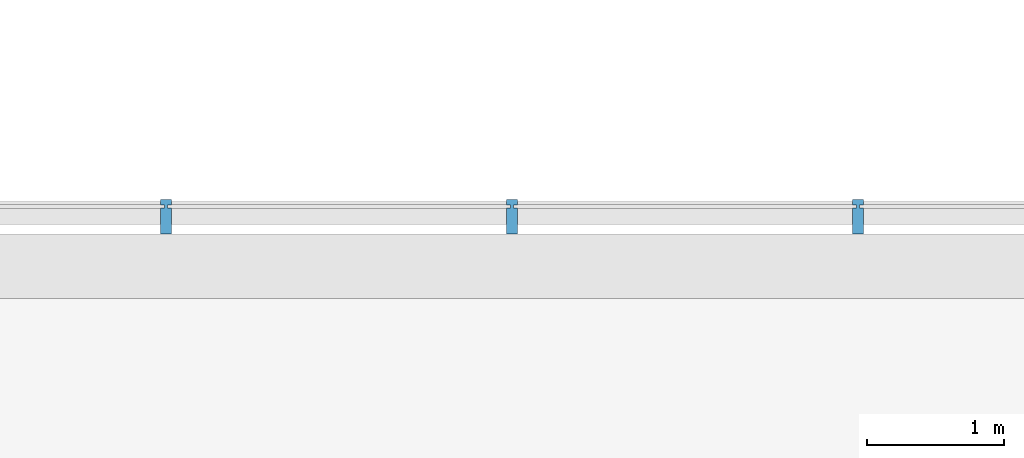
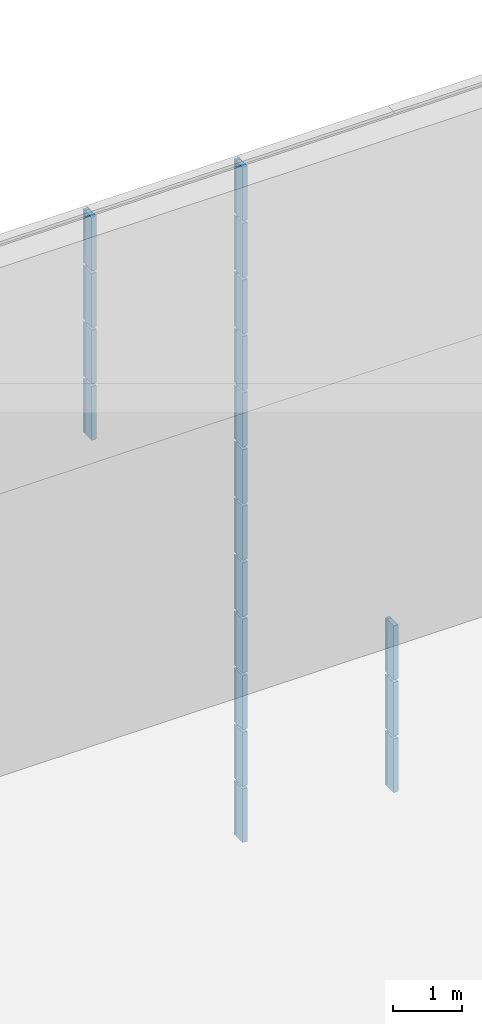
# One storey, part 89 of 105: 19 building element parts, 4 elements without a shape of their own.
"""IFC4 building model written with IfcOpenShell, lengths in millimetres."""

from ifc_helpers import new_model, entity, si_unit, converted_unit, derived_unit, direction, frame, origin_with_axes, place, context, subcontext, project, spatial, triangles, material, element, aggregate, save


model = new_model("IFC4")

# Units and contexts
model_context = context("Model", 3, precision=1e-05, world=origin_with_axes(), true_north=direction((0.0, 1.0)))
body_context = subcontext(model_context, "Body", "Model", "MODEL_VIEW")
ifc_project = project(units=[si_unit("LENGTHUNIT", "METRE", prefix="MILLI"), si_unit("AREAUNIT", "SQUARE_METRE"), si_unit("VOLUMEUNIT", "CUBIC_METRE"), converted_unit("PLANEANGLEUNIT", "DEGREE", entity("IfcLengthMeasure", 0.017453), si_unit("PLANEANGLEUNIT", "RADIAN"), dimensions=[0, 0, 0, 0, 0, 0, 0]), si_unit("SOLIDANGLEUNIT", "STERADIAN"), si_unit("MASSUNIT", "GRAM"), si_unit("TIMEUNIT", "SECOND"), si_unit("THERMODYNAMICTEMPERATUREUNIT", "DEGREE_CELSIUS"), si_unit("LUMINOUSINTENSITYUNIT", "LUMEN"), si_unit("POWERUNIT", "WATT"), derived_unit("THERMALTRANSMITTANCEUNIT", [(si_unit("POWERUNIT", "WATT"), 1), (si_unit("THERMODYNAMICTEMPERATUREUNIT", "KELVIN"), -1), (si_unit("AREAUNIT", "SQUARE_METRE"), -1)])], contexts=[model_context])

# Site, building, storey
site_placement = place(None, origin_with_axes())
site = spatial("IfcSite", under=ifc_project, at=site_placement, Name="Default Site", CompositionType="ELEMENT")
building_placement = place(site_placement, origin_with_axes())
building = spatial("IfcBuilding", under=site, at=building_placement, Name="Default Building", CompositionType="ELEMENT")
storey_placement = place(building_placement, origin_with_axes())
storey = spatial("IfcBuildingStorey", under=building, at=storey_placement, Name="OG - Story", CompositionType="ELEMENT", Elevation=0.0)

# Curtain wall, building element parts
curtain_wall_1_placement = place(storey_placement, origin_with_axes())
curtain_wall_1 = element("IfcCurtainWall", 1, at=curtain_wall_1_placement, inside=storey, Name="Fassade-004", PredefinedType="NOTDEFINED")
ifc_material = material(Name="Blech")
building_element_part_1_placement = place(curtain_wall_1_placement, frame((33014.549222, -4389.262838, 0.0), z_axis=(0.0, 0.0, 1.0), x_axis=(1.0, 0.0, 0.0)))
building_element_part_1 = element("IfcBuildingElementPart", 2, at=building_element_part_1_placement, material=ifc_material, Name="Blech", PredefinedType="NOTDEFINED", context=body_context, shape_type="Tessellation", body=[
    triangles([(18987.368, -9.999, 975.0), (18987.368, -199.999, 975.0), (18957.368, -9.999, 975.0), (18937.368, -9.999, 975.0), (18957.368, 10.0, 975.0), (18987.368, 50.0, 975.0), (18987.368, 10.0, 975.0), (18907.368, -199.999, 975.0), (18907.368, -9.999, 975.0), (18937.368, 10.0, 975.0), (18907.368, 10.0, 975.0), (18907.368, 50.0, 975.0), (18957.368, -9.999, 25.0), (18957.368, 10.0, 25.0), (18987.368, 10.0, 25.0), (18987.368, 50.0, 25.0), (18907.368, 50.0, 25.0), (18907.368, 10.0, 25.0), (18937.368, 10.0, 25.0), (18937.368, -9.999, 25.0), (18907.368, -9.999, 25.0), (18907.368, -199.999, 25.0), (18987.368, -199.999, 25.0), (18987.368, -9.999, 25.0)], [[1, 2, 3], [3, 2, 4], [3, 4, 5], [5, 4, 6], [5, 6, 7], [8, 9, 4], [8, 4, 2], [6, 4, 10], [6, 10, 11], [6, 11, 12], [3, 13, 14], [3, 14, 5], [5, 14, 15], [5, 15, 7], [15, 16, 6], [15, 6, 7], [12, 6, 16], [12, 16, 17], [18, 11, 12], [18, 12, 17], [11, 18, 19], [11, 19, 10], [4, 10, 19], [4, 19, 20], [9, 4, 20], [9, 20, 21], [9, 21, 22], [9, 22, 8], [2, 8, 22], [2, 22, 23], [1, 2, 23], [1, 23, 24], [1, 24, 13], [1, 13, 3], [15, 16, 14], [14, 16, 19], [14, 19, 13], [13, 19, 23], [13, 23, 24], [17, 18, 19], [17, 19, 16], [23, 19, 20], [23, 20, 21], [23, 21, 22]], closed=False),
])
building_element_part_2_placement = place(curtain_wall_1_placement, frame((33014.549222, -4389.262838, 0.0), z_axis=(0.0, 0.0, 1.0), x_axis=(1.0, 0.0, 0.0)))
building_element_part_2 = element("IfcBuildingElementPart", 3, at=building_element_part_2_placement, material=ifc_material, Name="Blech", PredefinedType="NOTDEFINED", context=body_context, shape_type="Tessellation", body=[
    triangles([(21513.684, -9.999, 975.0), (21513.684, -199.999, 975.0), (21483.684, -9.999, 975.0), (21463.684, -9.999, 975.0), (21483.684, 10.0, 975.0), (21513.684, 50.0, 975.0), (21513.684, 10.0, 975.0), (21433.684, -199.999, 975.0), (21433.684, -9.999, 975.0), (21463.684, 10.0, 975.0), (21433.684, 10.0, 975.0), (21433.684, 50.0, 975.0), (21483.684, -9.999, 25.0), (21483.684, 10.0, 25.0), (21513.684, 10.0, 25.0), (21513.684, 50.0, 25.0), (21433.684, 50.0, 25.0), (21433.684, 10.0, 25.0), (21463.684, 10.0, 25.0), (21463.684, -9.999, 25.0), (21433.684, -9.999, 25.0), (21433.684, -199.999, 25.0), (21513.684, -199.999, 25.0), (21513.684, -9.999, 25.0)], [[1, 2, 3], [3, 2, 4], [3, 4, 5], [5, 4, 6], [5, 6, 7], [8, 9, 4], [8, 4, 2], [6, 4, 10], [6, 10, 11], [6, 11, 12], [3, 13, 14], [3, 14, 5], [5, 14, 15], [5, 15, 7], [15, 16, 6], [15, 6, 7], [12, 6, 16], [12, 16, 17], [18, 11, 12], [18, 12, 17], [11, 18, 19], [11, 19, 10], [4, 10, 19], [4, 19, 20], [9, 4, 20], [9, 20, 21], [9, 21, 22], [9, 22, 8], [2, 8, 22], [2, 22, 23], [1, 2, 23], [1, 23, 24], [1, 24, 13], [1, 13, 3], [15, 16, 14], [14, 16, 19], [14, 19, 13], [13, 19, 23], [13, 23, 24], [17, 18, 19], [17, 19, 16], [23, 19, 20], [23, 20, 21], [23, 21, 22]], closed=False),
])
building_element_part_3_placement = place(curtain_wall_1_placement, frame((33014.549222, -4389.262838, 0.0), z_axis=(0.0, 0.0, 1.0), x_axis=(1.0, 0.0, 0.0)))
building_element_part_3 = element("IfcBuildingElementPart", 4, at=building_element_part_3_placement, material=ifc_material, Name="Blech", PredefinedType="NOTDEFINED", context=body_context, shape_type="Tessellation", body=[
    triangles([(18987.368, -9.999, 1975.0), (18987.368, -199.999, 1975.0), (18957.368, -9.999, 1975.0), (18937.368, -9.999, 1975.0), (18957.368, 10.0, 1975.0), (18987.368, 50.0, 1975.0), (18987.368, 10.0, 1975.0), (18907.368, -199.999, 1975.0), (18907.368, -9.999, 1975.0), (18937.368, 10.0, 1975.0), (18907.368, 10.0, 1975.0), (18907.368, 50.0, 1975.0), (18957.368, -9.999, 1025.0), (18957.368, 10.0, 1025.0), (18987.368, 10.0, 1025.0), (18987.368, 50.0, 1025.0), (18907.368, 50.0, 1025.0), (18907.368, 10.0, 1025.0), (18937.368, 10.0, 1025.0), (18937.368, -9.999, 1025.0), (18907.368, -9.999, 1025.0), (18907.368, -199.999, 1025.0), (18987.368, -199.999, 1025.0), (18987.368, -9.999, 1025.0)], [[1, 2, 3], [3, 2, 4], [3, 4, 5], [5, 4, 6], [5, 6, 7], [8, 9, 4], [8, 4, 2], [6, 4, 10], [6, 10, 11], [6, 11, 12], [3, 13, 14], [3, 14, 5], [5, 14, 15], [5, 15, 7], [15, 16, 6], [15, 6, 7], [12, 6, 16], [12, 16, 17], [18, 11, 12], [18, 12, 17], [11, 18, 19], [11, 19, 10], [4, 10, 19], [4, 19, 20], [9, 4, 20], [9, 20, 21], [9, 21, 22], [9, 22, 8], [2, 8, 22], [2, 22, 23], [1, 2, 23], [1, 23, 24], [1, 24, 13], [1, 13, 3], [15, 16, 14], [14, 16, 19], [14, 19, 13], [13, 19, 23], [13, 23, 24], [17, 18, 19], [17, 19, 16], [23, 19, 20], [23, 20, 21], [23, 21, 22]], closed=False),
])
building_element_part_4_placement = place(curtain_wall_1_placement, frame((33014.549222, -4389.262838, 0.0), z_axis=(0.0, 0.0, 1.0), x_axis=(1.0, 0.0, 0.0)))
building_element_part_4 = element("IfcBuildingElementPart", 5, at=building_element_part_4_placement, material=ifc_material, Name="Blech", PredefinedType="NOTDEFINED", context=body_context, shape_type="Tessellation", body=[
    triangles([(21513.684, -9.999, 1975.0), (21513.684, -199.999, 1975.0), (21483.684, -9.999, 1975.0), (21463.684, -9.999, 1975.0), (21483.684, 10.0, 1975.0), (21513.684, 50.0, 1975.0), (21513.684, 10.0, 1975.0), (21433.684, -199.999, 1975.0), (21433.684, -9.999, 1975.0), (21463.684, 10.0, 1975.0), (21433.684, 10.0, 1975.0), (21433.684, 50.0, 1975.0), (21483.684, -9.999, 1025.0), (21483.684, 10.0, 1025.0), (21513.684, 10.0, 1025.0), (21513.684, 50.0, 1025.0), (21433.684, 50.0, 1025.0), (21433.684, 10.0, 1025.0), (21463.684, 10.0, 1025.0), (21463.684, -9.999, 1025.0), (21433.684, -9.999, 1025.0), (21433.684, -199.999, 1025.0), (21513.684, -199.999, 1025.0), (21513.684, -9.999, 1025.0)], [[1, 2, 3], [3, 2, 4], [3, 4, 5], [5, 4, 6], [5, 6, 7], [8, 9, 4], [8, 4, 2], [6, 4, 10], [6, 10, 11], [6, 11, 12], [3, 13, 14], [3, 14, 5], [5, 14, 15], [5, 15, 7], [15, 16, 6], [15, 6, 7], [12, 6, 16], [12, 16, 17], [18, 11, 12], [18, 12, 17], [11, 18, 19], [11, 19, 10], [4, 10, 19], [4, 19, 20], [9, 4, 20], [9, 20, 21], [9, 21, 22], [9, 22, 8], [2, 8, 22], [2, 22, 23], [1, 2, 23], [1, 23, 24], [1, 24, 13], [1, 13, 3], [15, 16, 14], [14, 16, 19], [14, 19, 13], [13, 19, 23], [13, 23, 24], [17, 18, 19], [17, 19, 16], [23, 19, 20], [23, 20, 21], [23, 21, 22]], closed=False),
])
building_element_part_5_placement = place(curtain_wall_1_placement, frame((33014.549222, -4389.262838, 0.0), z_axis=(0.0, 0.0, 1.0), x_axis=(1.0, 0.0, 0.0)))
building_element_part_5 = element("IfcBuildingElementPart", 6, at=building_element_part_5_placement, material=ifc_material, Name="Blech", PredefinedType="NOTDEFINED", context=body_context, shape_type="Tessellation", body=[
    triangles([(18987.368, -9.999, 2975.0), (18987.368, -199.999, 2975.0), (18957.368, -9.999, 2975.0), (18937.368, -9.999, 2975.0), (18957.368, 10.0, 2975.0), (18987.368, 50.0, 2975.0), (18987.368, 10.0, 2975.0), (18907.368, -199.999, 2975.0), (18907.368, -9.999, 2975.0), (18937.368, 10.0, 2975.0), (18907.368, 10.0, 2975.0), (18907.368, 50.0, 2975.0), (18957.368, -9.999, 2025.0), (18957.368, 10.0, 2025.0), (18987.368, 10.0, 2025.0), (18987.368, 50.0, 2025.0), (18907.368, 50.0, 2025.0), (18907.368, 10.0, 2025.0), (18937.368, 10.0, 2025.0), (18937.368, -9.999, 2025.0), (18907.368, -9.999, 2025.0), (18907.368, -199.999, 2025.0), (18987.368, -199.999, 2025.0), (18987.368, -9.999, 2025.0)], [[1, 2, 3], [3, 2, 4], [3, 4, 5], [5, 4, 6], [5, 6, 7], [8, 9, 4], [8, 4, 2], [6, 4, 10], [6, 10, 11], [6, 11, 12], [3, 13, 14], [3, 14, 5], [5, 14, 15], [5, 15, 7], [15, 16, 6], [15, 6, 7], [12, 6, 16], [12, 16, 17], [18, 11, 12], [18, 12, 17], [11, 18, 19], [11, 19, 10], [4, 10, 19], [4, 19, 20], [9, 4, 20], [9, 20, 21], [9, 21, 22], [9, 22, 8], [2, 8, 22], [2, 22, 23], [1, 2, 23], [1, 23, 24], [1, 24, 13], [1, 13, 3], [15, 16, 14], [14, 16, 19], [14, 19, 13], [13, 19, 23], [13, 23, 24], [17, 18, 19], [17, 19, 16], [23, 19, 20], [23, 20, 21], [23, 21, 22]], closed=False),
])
building_element_part_6_placement = place(curtain_wall_1_placement, frame((33014.549222, -4389.262838, 0.0), z_axis=(0.0, 0.0, 1.0), x_axis=(1.0, 0.0, 0.0)))
building_element_part_6 = element("IfcBuildingElementPart", 7, at=building_element_part_6_placement, material=ifc_material, Name="Blech", PredefinedType="NOTDEFINED", context=body_context, shape_type="Tessellation", body=[
    triangles([(21513.684, -9.999, 2975.0), (21513.684, -199.999, 2975.0), (21483.684, -9.999, 2975.0), (21463.684, -9.999, 2975.0), (21483.684, 10.0, 2975.0), (21513.684, 50.0, 2975.0), (21513.684, 10.0, 2975.0), (21433.684, -199.999, 2975.0), (21433.684, -9.999, 2975.0), (21463.684, 10.0, 2975.0), (21433.684, 10.0, 2975.0), (21433.684, 50.0, 2975.0), (21483.684, -9.999, 2025.0), (21483.684, 10.0, 2025.0), (21513.684, 10.0, 2025.0), (21513.684, 50.0, 2025.0), (21433.684, 50.0, 2025.0), (21433.684, 10.0, 2025.0), (21463.684, 10.0, 2025.0), (21463.684, -9.999, 2025.0), (21433.684, -9.999, 2025.0), (21433.684, -199.999, 2025.0), (21513.684, -199.999, 2025.0), (21513.684, -9.999, 2025.0)], [[1, 2, 3], [3, 2, 4], [3, 4, 5], [5, 4, 6], [5, 6, 7], [8, 9, 4], [8, 4, 2], [6, 4, 10], [6, 10, 11], [6, 11, 12], [3, 13, 14], [3, 14, 5], [5, 14, 15], [5, 15, 7], [15, 16, 6], [15, 6, 7], [12, 6, 16], [12, 16, 17], [18, 11, 12], [18, 12, 17], [11, 18, 19], [11, 19, 10], [4, 10, 19], [4, 19, 20], [9, 4, 20], [9, 20, 21], [9, 21, 22], [9, 22, 8], [2, 8, 22], [2, 22, 23], [1, 2, 23], [1, 23, 24], [1, 24, 13], [1, 13, 3], [15, 16, 14], [14, 16, 19], [14, 19, 13], [13, 19, 23], [13, 23, 24], [17, 18, 19], [17, 19, 16], [23, 19, 20], [23, 20, 21], [23, 21, 22]], closed=False),
])
aggregate(curtain_wall_1, [building_element_part_1, building_element_part_2, building_element_part_3, building_element_part_4, building_element_part_5, building_element_part_6])

curtain_wall_2_placement = place(storey_placement, origin_with_axes())
curtain_wall_2 = element("IfcCurtainWall", 8, at=curtain_wall_2_placement, inside=storey, Name="Fassade-004", PredefinedType="NOTDEFINED")
building_element_part_7_placement = place(curtain_wall_2_placement, frame((33014.549222, -4389.262838, 3000.0), z_axis=(0.0, 0.0, 1.0), x_axis=(1.0, 0.0, 0.0)))
building_element_part_7 = element("IfcBuildingElementPart", 9, at=building_element_part_7_placement, material=ifc_material, Name="Blech", PredefinedType="NOTDEFINED", context=body_context, shape_type="Tessellation", body=[
    triangles([(18987.368, -9.999, 975.0), (18987.368, -199.999, 975.0), (18957.368, -9.999, 975.0), (18937.368, -9.999, 975.0), (18957.368, 10.0, 975.0), (18987.368, 50.0, 975.0), (18987.368, 10.0, 975.0), (18907.368, -199.999, 975.0), (18907.368, -9.999, 975.0), (18937.368, 10.0, 975.0), (18907.368, 10.0, 975.0), (18907.368, 50.0, 975.0), (18957.368, -9.999, 25.0), (18957.368, 10.0, 25.0), (18987.368, 10.0, 25.0), (18987.368, 50.0, 25.0), (18907.368, 50.0, 25.0), (18907.368, 10.0, 25.0), (18937.368, 10.0, 25.0), (18937.368, -9.999, 25.0), (18907.368, -9.999, 25.0), (18907.368, -199.999, 25.0), (18987.368, -199.999, 25.0), (18987.368, -9.999, 25.0)], [[1, 2, 3], [3, 2, 4], [3, 4, 5], [5, 4, 6], [5, 6, 7], [8, 9, 4], [8, 4, 2], [6, 4, 10], [6, 10, 11], [6, 11, 12], [3, 13, 14], [3, 14, 5], [5, 14, 15], [5, 15, 7], [15, 16, 6], [15, 6, 7], [12, 6, 16], [12, 16, 17], [18, 11, 12], [18, 12, 17], [11, 18, 19], [11, 19, 10], [4, 10, 19], [4, 19, 20], [9, 4, 20], [9, 20, 21], [9, 21, 22], [9, 22, 8], [2, 8, 22], [2, 22, 23], [1, 2, 23], [1, 23, 24], [1, 24, 13], [1, 13, 3], [15, 16, 14], [14, 16, 19], [14, 19, 13], [13, 19, 23], [13, 23, 24], [17, 18, 19], [17, 19, 16], [23, 19, 20], [23, 20, 21], [23, 21, 22]], closed=False),
])
building_element_part_8_placement = place(curtain_wall_2_placement, frame((33014.549222, -4389.262838, 3000.0), z_axis=(0.0, 0.0, 1.0), x_axis=(1.0, 0.0, 0.0)))
building_element_part_8 = element("IfcBuildingElementPart", 10, at=building_element_part_8_placement, material=ifc_material, Name="Blech", PredefinedType="NOTDEFINED", context=body_context, shape_type="Tessellation", body=[
    triangles([(18987.368, -9.999, 1975.0), (18987.368, -199.999, 1975.0), (18957.368, -9.999, 1975.0), (18937.368, -9.999, 1975.0), (18957.368, 10.0, 1975.0), (18987.368, 50.0, 1975.0), (18987.368, 10.0, 1975.0), (18907.368, -199.999, 1975.0), (18907.368, -9.999, 1975.0), (18937.368, 10.0, 1975.0), (18907.368, 10.0, 1975.0), (18907.368, 50.0, 1975.0), (18957.368, -9.999, 1025.0), (18957.368, 10.0, 1025.0), (18987.368, 10.0, 1025.0), (18987.368, 50.0, 1025.0), (18907.368, 50.0, 1025.0), (18907.368, 10.0, 1025.0), (18937.368, 10.0, 1025.0), (18937.368, -9.999, 1025.0), (18907.368, -9.999, 1025.0), (18907.368, -199.999, 1025.0), (18987.368, -199.999, 1025.0), (18987.368, -9.999, 1025.0)], [[1, 2, 3], [3, 2, 4], [3, 4, 5], [5, 4, 6], [5, 6, 7], [8, 9, 4], [8, 4, 2], [6, 4, 10], [6, 10, 11], [6, 11, 12], [3, 13, 14], [3, 14, 5], [5, 14, 15], [5, 15, 7], [15, 16, 6], [15, 6, 7], [12, 6, 16], [12, 16, 17], [18, 11, 12], [18, 12, 17], [11, 18, 19], [11, 19, 10], [4, 10, 19], [4, 19, 20], [9, 4, 20], [9, 20, 21], [9, 21, 22], [9, 22, 8], [2, 8, 22], [2, 22, 23], [1, 2, 23], [1, 23, 24], [1, 24, 13], [1, 13, 3], [15, 16, 14], [14, 16, 19], [14, 19, 13], [13, 19, 23], [13, 23, 24], [17, 18, 19], [17, 19, 16], [23, 19, 20], [23, 20, 21], [23, 21, 22]], closed=False),
])
building_element_part_9_placement = place(curtain_wall_2_placement, frame((33014.549222, -4389.262838, 3000.0), z_axis=(0.0, 0.0, 1.0), x_axis=(1.0, 0.0, 0.0)))
building_element_part_9 = element("IfcBuildingElementPart", 11, at=building_element_part_9_placement, material=ifc_material, Name="Blech", PredefinedType="NOTDEFINED", context=body_context, shape_type="Tessellation", body=[
    triangles([(18987.368, -9.999, 2975.0), (18987.368, -199.999, 2975.0), (18957.368, -9.999, 2975.0), (18937.368, -9.999, 2975.0), (18957.368, 10.0, 2975.0), (18987.368, 50.0, 2975.0), (18987.368, 10.0, 2975.0), (18907.368, -199.999, 2975.0), (18907.368, -9.999, 2975.0), (18937.368, 10.0, 2975.0), (18907.368, 10.0, 2975.0), (18907.368, 50.0, 2975.0), (18957.368, -9.999, 2025.0), (18957.368, 10.0, 2025.0), (18987.368, 10.0, 2025.0), (18987.368, 50.0, 2025.0), (18907.368, 50.0, 2025.0), (18907.368, 10.0, 2025.0), (18937.368, 10.0, 2025.0), (18937.368, -9.999, 2025.0), (18907.368, -9.999, 2025.0), (18907.368, -199.999, 2025.0), (18987.368, -199.999, 2025.0), (18987.368, -9.999, 2025.0)], [[1, 2, 3], [3, 2, 4], [3, 4, 5], [5, 4, 6], [5, 6, 7], [8, 9, 4], [8, 4, 2], [6, 4, 10], [6, 10, 11], [6, 11, 12], [3, 13, 14], [3, 14, 5], [5, 14, 15], [5, 15, 7], [15, 16, 6], [15, 6, 7], [12, 6, 16], [12, 16, 17], [18, 11, 12], [18, 12, 17], [11, 18, 19], [11, 19, 10], [4, 10, 19], [4, 19, 20], [9, 4, 20], [9, 20, 21], [9, 21, 22], [9, 22, 8], [2, 8, 22], [2, 22, 23], [1, 2, 23], [1, 23, 24], [1, 24, 13], [1, 13, 3], [15, 16, 14], [14, 16, 19], [14, 19, 13], [13, 19, 23], [13, 23, 24], [17, 18, 19], [17, 19, 16], [23, 19, 20], [23, 20, 21], [23, 21, 22]], closed=False),
])
aggregate(curtain_wall_2, [building_element_part_7, building_element_part_8, building_element_part_9])

curtain_wall_3_placement = place(storey_placement, origin_with_axes())
curtain_wall_3 = element("IfcCurtainWall", 12, at=curtain_wall_3_placement, inside=storey, Name="Fassade-004", PredefinedType="NOTDEFINED")
building_element_part_10_placement = place(curtain_wall_3_placement, frame((33014.549222, -4389.262838, 6000.0), z_axis=(0.0, 0.0, 1.0), x_axis=(1.0, 0.0, 0.0)))
building_element_part_10 = element("IfcBuildingElementPart", 13, at=building_element_part_10_placement, material=ifc_material, Name="Blech", PredefinedType="NOTDEFINED", context=body_context, shape_type="Tessellation", body=[
    triangles([(18987.368, -9.999, 975.0), (18987.368, -199.999, 975.0), (18957.368, -9.999, 975.0), (18937.368, -9.999, 975.0), (18957.368, 10.0, 975.0), (18987.368, 50.0, 975.0), (18987.368, 10.0, 975.0), (18907.368, -199.999, 975.0), (18907.368, -9.999, 975.0), (18937.368, 10.0, 975.0), (18907.368, 10.0, 975.0), (18907.368, 50.0, 975.0), (18957.368, -9.999, 25.0), (18957.368, 10.0, 25.0), (18987.368, 10.0, 25.0), (18987.368, 50.0, 25.0), (18907.368, 50.0, 25.0), (18907.368, 10.0, 25.0), (18937.368, 10.0, 25.0), (18937.368, -9.999, 25.0), (18907.368, -9.999, 25.0), (18907.368, -199.999, 25.0), (18987.368, -199.999, 25.0), (18987.368, -9.999, 25.0)], [[1, 2, 3], [3, 2, 4], [3, 4, 5], [5, 4, 6], [5, 6, 7], [8, 9, 4], [8, 4, 2], [6, 4, 10], [6, 10, 11], [6, 11, 12], [3, 13, 14], [3, 14, 5], [5, 14, 15], [5, 15, 7], [15, 16, 6], [15, 6, 7], [12, 6, 16], [12, 16, 17], [18, 11, 12], [18, 12, 17], [11, 18, 19], [11, 19, 10], [4, 10, 19], [4, 19, 20], [9, 4, 20], [9, 20, 21], [9, 21, 22], [9, 22, 8], [2, 8, 22], [2, 22, 23], [1, 2, 23], [1, 23, 24], [1, 24, 13], [1, 13, 3], [15, 16, 14], [14, 16, 19], [14, 19, 13], [13, 19, 23], [13, 23, 24], [17, 18, 19], [17, 19, 16], [23, 19, 20], [23, 20, 21], [23, 21, 22]], closed=False),
])
building_element_part_11_placement = place(curtain_wall_3_placement, frame((33014.549222, -4389.262838, 6000.0), z_axis=(0.0, 0.0, 1.0), x_axis=(1.0, 0.0, 0.0)))
building_element_part_11 = element("IfcBuildingElementPart", 14, at=building_element_part_11_placement, material=ifc_material, Name="Blech", PredefinedType="NOTDEFINED", context=body_context, shape_type="Tessellation", body=[
    triangles([(18987.368, -9.999, 1975.0), (18987.368, -199.999, 1975.0), (18957.368, -9.999, 1975.0), (18937.368, -9.999, 1975.0), (18957.368, 10.0, 1975.0), (18987.368, 50.0, 1975.0), (18987.368, 10.0, 1975.0), (18907.368, -199.999, 1975.0), (18907.368, -9.999, 1975.0), (18937.368, 10.0, 1975.0), (18907.368, 10.0, 1975.0), (18907.368, 50.0, 1975.0), (18957.368, -9.999, 1025.0), (18957.368, 10.0, 1025.0), (18987.368, 10.0, 1025.0), (18987.368, 50.0, 1025.0), (18907.368, 50.0, 1025.0), (18907.368, 10.0, 1025.0), (18937.368, 10.0, 1025.0), (18937.368, -9.999, 1025.0), (18907.368, -9.999, 1025.0), (18907.368, -199.999, 1025.0), (18987.368, -199.999, 1025.0), (18987.368, -9.999, 1025.0)], [[1, 2, 3], [3, 2, 4], [3, 4, 5], [5, 4, 6], [5, 6, 7], [8, 9, 4], [8, 4, 2], [6, 4, 10], [6, 10, 11], [6, 11, 12], [3, 13, 14], [3, 14, 5], [5, 14, 15], [5, 15, 7], [15, 16, 6], [15, 6, 7], [12, 6, 16], [12, 16, 17], [18, 11, 12], [18, 12, 17], [11, 18, 19], [11, 19, 10], [4, 10, 19], [4, 19, 20], [9, 4, 20], [9, 20, 21], [9, 21, 22], [9, 22, 8], [2, 8, 22], [2, 22, 23], [1, 2, 23], [1, 23, 24], [1, 24, 13], [1, 13, 3], [15, 16, 14], [14, 16, 19], [14, 19, 13], [13, 19, 23], [13, 23, 24], [17, 18, 19], [17, 19, 16], [23, 19, 20], [23, 20, 21], [23, 21, 22]], closed=False),
])
building_element_part_12_placement = place(curtain_wall_3_placement, frame((33014.549222, -4389.262838, 6000.0), z_axis=(0.0, 0.0, 1.0), x_axis=(1.0, 0.0, 0.0)))
building_element_part_12 = element("IfcBuildingElementPart", 15, at=building_element_part_12_placement, material=ifc_material, Name="Blech", PredefinedType="NOTDEFINED", context=body_context, shape_type="Tessellation", body=[
    triangles([(16461.053, -9.999, 2975.0), (16461.053, -199.999, 2975.0), (16431.053, -9.999, 2975.0), (16411.053, -9.999, 2975.0), (16431.053, 10.0, 2975.0), (16461.053, 50.0, 2975.0), (16461.053, 10.0, 2975.0), (16381.053, -199.999, 2975.0), (16381.053, -9.999, 2975.0), (16411.053, 10.0, 2975.0), (16381.053, 10.0, 2975.0), (16381.053, 50.0, 2975.0), (16431.053, -9.999, 2025.0), (16431.053, 10.0, 2025.0), (16461.053, 10.0, 2025.0), (16461.053, 50.0, 2025.0), (16381.053, 50.0, 2025.0), (16381.053, 10.0, 2025.0), (16411.053, 10.0, 2025.0), (16411.053, -9.999, 2025.0), (16381.053, -9.999, 2025.0), (16381.053, -199.999, 2025.0), (16461.053, -199.999, 2025.0), (16461.053, -9.999, 2025.0)], [[1, 2, 3], [3, 2, 4], [3, 4, 5], [5, 4, 6], [5, 6, 7], [8, 9, 4], [8, 4, 2], [6, 4, 10], [6, 10, 11], [6, 11, 12], [3, 13, 14], [3, 14, 5], [5, 14, 15], [5, 15, 7], [15, 16, 6], [15, 6, 7], [12, 6, 16], [12, 16, 17], [18, 11, 12], [18, 12, 17], [11, 18, 19], [11, 19, 10], [4, 10, 19], [4, 19, 20], [9, 4, 20], [9, 20, 21], [9, 21, 22], [9, 22, 8], [2, 8, 22], [2, 22, 23], [1, 2, 23], [1, 23, 24], [1, 24, 13], [1, 13, 3], [15, 16, 14], [14, 16, 19], [14, 19, 13], [13, 19, 23], [13, 23, 24], [17, 18, 19], [17, 19, 16], [23, 19, 20], [23, 20, 21], [23, 21, 22]], closed=False),
])
building_element_part_13_placement = place(curtain_wall_3_placement, frame((33014.549222, -4389.262838, 6000.0), z_axis=(0.0, 0.0, 1.0), x_axis=(1.0, 0.0, 0.0)))
building_element_part_13 = element("IfcBuildingElementPart", 16, at=building_element_part_13_placement, material=ifc_material, Name="Blech", PredefinedType="NOTDEFINED", context=body_context, shape_type="Tessellation", body=[
    triangles([(18987.368, -9.999, 2975.0), (18987.368, -199.999, 2975.0), (18957.368, -9.999, 2975.0), (18937.368, -9.999, 2975.0), (18957.368, 10.0, 2975.0), (18987.368, 50.0, 2975.0), (18987.368, 10.0, 2975.0), (18907.368, -199.999, 2975.0), (18907.368, -9.999, 2975.0), (18937.368, 10.0, 2975.0), (18907.368, 10.0, 2975.0), (18907.368, 50.0, 2975.0), (18957.368, -9.999, 2025.0), (18957.368, 10.0, 2025.0), (18987.368, 10.0, 2025.0), (18987.368, 50.0, 2025.0), (18907.368, 50.0, 2025.0), (18907.368, 10.0, 2025.0), (18937.368, 10.0, 2025.0), (18937.368, -9.999, 2025.0), (18907.368, -9.999, 2025.0), (18907.368, -199.999, 2025.0), (18987.368, -199.999, 2025.0), (18987.368, -9.999, 2025.0)], [[1, 2, 3], [3, 2, 4], [3, 4, 5], [5, 4, 6], [5, 6, 7], [8, 9, 4], [8, 4, 2], [6, 4, 10], [6, 10, 11], [6, 11, 12], [3, 13, 14], [3, 14, 5], [5, 14, 15], [5, 15, 7], [15, 16, 6], [15, 6, 7], [12, 6, 16], [12, 16, 17], [18, 11, 12], [18, 12, 17], [11, 18, 19], [11, 19, 10], [4, 10, 19], [4, 19, 20], [9, 4, 20], [9, 20, 21], [9, 21, 22], [9, 22, 8], [2, 8, 22], [2, 22, 23], [1, 2, 23], [1, 23, 24], [1, 24, 13], [1, 13, 3], [15, 16, 14], [14, 16, 19], [14, 19, 13], [13, 19, 23], [13, 23, 24], [17, 18, 19], [17, 19, 16], [23, 19, 20], [23, 20, 21], [23, 21, 22]], closed=False),
])
aggregate(curtain_wall_3, [building_element_part_10, building_element_part_11, building_element_part_12, building_element_part_13])

curtain_wall_4_placement = place(storey_placement, origin_with_axes())
curtain_wall_4 = element("IfcCurtainWall", 17, at=curtain_wall_4_placement, inside=storey, Name="Fassade-004", PredefinedType="NOTDEFINED")
building_element_part_14_placement = place(curtain_wall_4_placement, frame((33014.549222, -4389.262838, 9000.0), z_axis=(0.0, 0.0, 1.0), x_axis=(1.0, 0.0, 0.0)))
building_element_part_14 = element("IfcBuildingElementPart", 18, at=building_element_part_14_placement, material=ifc_material, Name="Blech", PredefinedType="NOTDEFINED", context=body_context, shape_type="Tessellation", body=[
    triangles([(16461.053, -9.999, 975.0), (16461.053, -199.999, 975.0), (16431.053, -9.999, 975.0), (16411.053, -9.999, 975.0), (16431.053, 10.0, 975.0), (16461.053, 50.0, 975.0), (16461.053, 10.0, 975.0), (16381.053, -199.999, 975.0), (16381.053, -9.999, 975.0), (16411.053, 10.0, 975.0), (16381.053, 10.0, 975.0), (16381.053, 50.0, 975.0), (16431.053, -9.999, 25.0), (16431.053, 10.0, 25.0), (16461.053, 10.0, 25.0), (16461.053, 50.0, 25.0), (16381.053, 50.0, 25.0), (16381.053, 10.0, 25.0), (16411.053, 10.0, 25.0), (16411.053, -9.999, 25.0), (16381.053, -9.999, 25.0), (16381.053, -199.999, 25.0), (16461.053, -199.999, 25.0), (16461.053, -9.999, 25.0)], [[1, 2, 3], [3, 2, 4], [3, 4, 5], [5, 4, 6], [5, 6, 7], [8, 9, 4], [8, 4, 2], [6, 4, 10], [6, 10, 11], [6, 11, 12], [3, 13, 14], [3, 14, 5], [5, 14, 15], [5, 15, 7], [15, 16, 6], [15, 6, 7], [12, 6, 16], [12, 16, 17], [18, 11, 12], [18, 12, 17], [11, 18, 19], [11, 19, 10], [4, 10, 19], [4, 19, 20], [9, 4, 20], [9, 20, 21], [9, 21, 22], [9, 22, 8], [2, 8, 22], [2, 22, 23], [1, 2, 23], [1, 23, 24], [1, 24, 13], [1, 13, 3], [15, 16, 14], [14, 16, 19], [14, 19, 13], [13, 19, 23], [13, 23, 24], [17, 18, 19], [17, 19, 16], [23, 19, 20], [23, 20, 21], [23, 21, 22]], closed=False),
])
building_element_part_15_placement = place(curtain_wall_4_placement, frame((33014.549222, -4389.262838, 9000.0), z_axis=(0.0, 0.0, 1.0), x_axis=(1.0, 0.0, 0.0)))
building_element_part_15 = element("IfcBuildingElementPart", 19, at=building_element_part_15_placement, material=ifc_material, Name="Blech", PredefinedType="NOTDEFINED", context=body_context, shape_type="Tessellation", body=[
    triangles([(18987.368, -9.999, 975.0), (18987.368, -199.999, 975.0), (18957.368, -9.999, 975.0), (18937.368, -9.999, 975.0), (18957.368, 10.0, 975.0), (18987.368, 50.0, 975.0), (18987.368, 10.0, 975.0), (18907.368, -199.999, 975.0), (18907.368, -9.999, 975.0), (18937.368, 10.0, 975.0), (18907.368, 10.0, 975.0), (18907.368, 50.0, 975.0), (18957.368, -9.999, 25.0), (18957.368, 10.0, 25.0), (18987.368, 10.0, 25.0), (18987.368, 50.0, 25.0), (18907.368, 50.0, 25.0), (18907.368, 10.0, 25.0), (18937.368, 10.0, 25.0), (18937.368, -9.999, 25.0), (18907.368, -9.999, 25.0), (18907.368, -199.999, 25.0), (18987.368, -199.999, 25.0), (18987.368, -9.999, 25.0)], [[1, 2, 3], [3, 2, 4], [3, 4, 5], [5, 4, 6], [5, 6, 7], [8, 9, 4], [8, 4, 2], [6, 4, 10], [6, 10, 11], [6, 11, 12], [3, 13, 14], [3, 14, 5], [5, 14, 15], [5, 15, 7], [15, 16, 6], [15, 6, 7], [12, 6, 16], [12, 16, 17], [18, 11, 12], [18, 12, 17], [11, 18, 19], [11, 19, 10], [4, 10, 19], [4, 19, 20], [9, 4, 20], [9, 20, 21], [9, 21, 22], [9, 22, 8], [2, 8, 22], [2, 22, 23], [1, 2, 23], [1, 23, 24], [1, 24, 13], [1, 13, 3], [15, 16, 14], [14, 16, 19], [14, 19, 13], [13, 19, 23], [13, 23, 24], [17, 18, 19], [17, 19, 16], [23, 19, 20], [23, 20, 21], [23, 21, 22]], closed=False),
])
building_element_part_16_placement = place(curtain_wall_4_placement, frame((33014.549222, -4389.262838, 9000.0), z_axis=(0.0, 0.0, 1.0), x_axis=(1.0, 0.0, 0.0)))
building_element_part_16 = element("IfcBuildingElementPart", 20, at=building_element_part_16_placement, material=ifc_material, Name="Blech", PredefinedType="NOTDEFINED", context=body_context, shape_type="Tessellation", body=[
    triangles([(16461.053, -9.999, 1975.0), (16461.053, -199.999, 1975.0), (16431.053, -9.999, 1975.0), (16411.053, -9.999, 1975.0), (16431.053, 10.0, 1975.0), (16461.053, 50.0, 1975.0), (16461.053, 10.0, 1975.0), (16381.053, -199.999, 1975.0), (16381.053, -9.999, 1975.0), (16411.053, 10.0, 1975.0), (16381.053, 10.0, 1975.0), (16381.053, 50.0, 1975.0), (16431.053, -9.999, 1025.0), (16431.053, 10.0, 1025.0), (16461.053, 10.0, 1025.0), (16461.053, 50.0, 1025.0), (16381.053, 50.0, 1025.0), (16381.053, 10.0, 1025.0), (16411.053, 10.0, 1025.0), (16411.053, -9.999, 1025.0), (16381.053, -9.999, 1025.0), (16381.053, -199.999, 1025.0), (16461.053, -199.999, 1025.0), (16461.053, -9.999, 1025.0)], [[1, 2, 3], [3, 2, 4], [3, 4, 5], [5, 4, 6], [5, 6, 7], [8, 9, 4], [8, 4, 2], [6, 4, 10], [6, 10, 11], [6, 11, 12], [3, 13, 14], [3, 14, 5], [5, 14, 15], [5, 15, 7], [15, 16, 6], [15, 6, 7], [12, 6, 16], [12, 16, 17], [18, 11, 12], [18, 12, 17], [11, 18, 19], [11, 19, 10], [4, 10, 19], [4, 19, 20], [9, 4, 20], [9, 20, 21], [9, 21, 22], [9, 22, 8], [2, 8, 22], [2, 22, 23], [1, 2, 23], [1, 23, 24], [1, 24, 13], [1, 13, 3], [15, 16, 14], [14, 16, 19], [14, 19, 13], [13, 19, 23], [13, 23, 24], [17, 18, 19], [17, 19, 16], [23, 19, 20], [23, 20, 21], [23, 21, 22]], closed=False),
])
building_element_part_17_placement = place(curtain_wall_4_placement, frame((33014.549222, -4389.262838, 9000.0), z_axis=(0.0, 0.0, 1.0), x_axis=(1.0, 0.0, 0.0)))
building_element_part_17 = element("IfcBuildingElementPart", 21, at=building_element_part_17_placement, material=ifc_material, Name="Blech", PredefinedType="NOTDEFINED", context=body_context, shape_type="Tessellation", body=[
    triangles([(18987.368, -9.999, 1975.0), (18987.368, -199.999, 1975.0), (18957.368, -9.999, 1975.0), (18937.368, -9.999, 1975.0), (18957.368, 10.0, 1975.0), (18987.368, 50.0, 1975.0), (18987.368, 10.0, 1975.0), (18907.368, -199.999, 1975.0), (18907.368, -9.999, 1975.0), (18937.368, 10.0, 1975.0), (18907.368, 10.0, 1975.0), (18907.368, 50.0, 1975.0), (18957.368, -9.999, 1025.0), (18957.368, 10.0, 1025.0), (18987.368, 10.0, 1025.0), (18987.368, 50.0, 1025.0), (18907.368, 50.0, 1025.0), (18907.368, 10.0, 1025.0), (18937.368, 10.0, 1025.0), (18937.368, -9.999, 1025.0), (18907.368, -9.999, 1025.0), (18907.368, -199.999, 1025.0), (18987.368, -199.999, 1025.0), (18987.368, -9.999, 1025.0)], [[1, 2, 3], [3, 2, 4], [3, 4, 5], [5, 4, 6], [5, 6, 7], [8, 9, 4], [8, 4, 2], [6, 4, 10], [6, 10, 11], [6, 11, 12], [3, 13, 14], [3, 14, 5], [5, 14, 15], [5, 15, 7], [15, 16, 6], [15, 6, 7], [12, 6, 16], [12, 16, 17], [18, 11, 12], [18, 12, 17], [11, 18, 19], [11, 19, 10], [4, 10, 19], [4, 19, 20], [9, 4, 20], [9, 20, 21], [9, 21, 22], [9, 22, 8], [2, 8, 22], [2, 22, 23], [1, 2, 23], [1, 23, 24], [1, 24, 13], [1, 13, 3], [15, 16, 14], [14, 16, 19], [14, 19, 13], [13, 19, 23], [13, 23, 24], [17, 18, 19], [17, 19, 16], [23, 19, 20], [23, 20, 21], [23, 21, 22]], closed=False),
])
building_element_part_18_placement = place(curtain_wall_4_placement, frame((33014.549222, -4389.262838, 9000.0), z_axis=(0.0, 0.0, 1.0), x_axis=(1.0, 0.0, 0.0)))
building_element_part_18 = element("IfcBuildingElementPart", 22, at=building_element_part_18_placement, material=ifc_material, Name="Blech", PredefinedType="NOTDEFINED", context=body_context, shape_type="Tessellation", body=[
    triangles([(16461.053, -9.999, 2975.0), (16461.053, -199.999, 2975.0), (16431.053, -9.999, 2975.0), (16411.053, -9.999, 2975.0), (16431.053, 10.0, 2975.0), (16461.053, 50.0, 2975.0), (16461.053, 10.0, 2975.0), (16381.053, -199.999, 2975.0), (16381.053, -9.999, 2975.0), (16411.053, 10.0, 2975.0), (16381.053, 10.0, 2975.0), (16381.053, 50.0, 2975.0), (16431.053, -9.999, 2025.0), (16431.053, 10.0, 2025.0), (16461.053, 10.0, 2025.0), (16461.053, 50.0, 2025.0), (16381.053, 50.0, 2025.0), (16381.053, 10.0, 2025.0), (16411.053, 10.0, 2025.0), (16411.053, -9.999, 2025.0), (16381.053, -9.999, 2025.0), (16381.053, -199.999, 2025.0), (16461.053, -199.999, 2025.0), (16461.053, -9.999, 2025.0)], [[1, 2, 3], [3, 2, 4], [3, 4, 5], [5, 4, 6], [5, 6, 7], [8, 9, 4], [8, 4, 2], [6, 4, 10], [6, 10, 11], [6, 11, 12], [3, 13, 14], [3, 14, 5], [5, 14, 15], [5, 15, 7], [15, 16, 6], [15, 6, 7], [12, 6, 16], [12, 16, 17], [18, 11, 12], [18, 12, 17], [11, 18, 19], [11, 19, 10], [4, 10, 19], [4, 19, 20], [9, 4, 20], [9, 20, 21], [9, 21, 22], [9, 22, 8], [2, 8, 22], [2, 22, 23], [1, 2, 23], [1, 23, 24], [1, 24, 13], [1, 13, 3], [15, 16, 14], [14, 16, 19], [14, 19, 13], [13, 19, 23], [13, 23, 24], [17, 18, 19], [17, 19, 16], [23, 19, 20], [23, 20, 21], [23, 21, 22]], closed=False),
])
building_element_part_19_placement = place(curtain_wall_4_placement, frame((33014.549222, -4389.262838, 9000.0), z_axis=(0.0, 0.0, 1.0), x_axis=(1.0, 0.0, 0.0)))
building_element_part_19 = element("IfcBuildingElementPart", 23, at=building_element_part_19_placement, material=ifc_material, Name="Blech", PredefinedType="NOTDEFINED", context=body_context, shape_type="Tessellation", body=[
    triangles([(18987.368, -9.999, 2975.0), (18987.368, -199.999, 2975.0), (18957.368, -9.999, 2975.0), (18937.368, -9.999, 2975.0), (18957.368, 10.0, 2975.0), (18987.368, 50.0, 2975.0), (18987.368, 10.0, 2975.0), (18907.368, -199.999, 2975.0), (18907.368, -9.999, 2975.0), (18937.368, 10.0, 2975.0), (18907.368, 10.0, 2975.0), (18907.368, 50.0, 2975.0), (18957.368, -9.999, 2025.0), (18957.368, 10.0, 2025.0), (18987.368, 10.0, 2025.0), (18987.368, 50.0, 2025.0), (18907.368, 50.0, 2025.0), (18907.368, 10.0, 2025.0), (18937.368, 10.0, 2025.0), (18937.368, -9.999, 2025.0), (18907.368, -9.999, 2025.0), (18907.368, -199.999, 2025.0), (18987.368, -199.999, 2025.0), (18987.368, -9.999, 2025.0)], [[1, 2, 3], [3, 2, 4], [3, 4, 5], [5, 4, 6], [5, 6, 7], [8, 9, 4], [8, 4, 2], [6, 4, 10], [6, 10, 11], [6, 11, 12], [3, 13, 14], [3, 14, 5], [5, 14, 15], [5, 15, 7], [15, 16, 6], [15, 6, 7], [12, 6, 16], [12, 16, 17], [18, 11, 12], [18, 12, 17], [11, 18, 19], [11, 19, 10], [4, 10, 19], [4, 19, 20], [9, 4, 20], [9, 20, 21], [9, 21, 22], [9, 22, 8], [2, 8, 22], [2, 22, 23], [1, 2, 23], [1, 23, 24], [1, 24, 13], [1, 13, 3], [15, 16, 14], [14, 16, 19], [14, 19, 13], [13, 19, 23], [13, 23, 24], [17, 18, 19], [17, 19, 16], [23, 19, 20], [23, 20, 21], [23, 21, 22]], closed=False),
])
aggregate(curtain_wall_4, [building_element_part_14, building_element_part_15, building_element_part_16, building_element_part_17, building_element_part_18, building_element_part_19])

save(model, "model.ifc")
